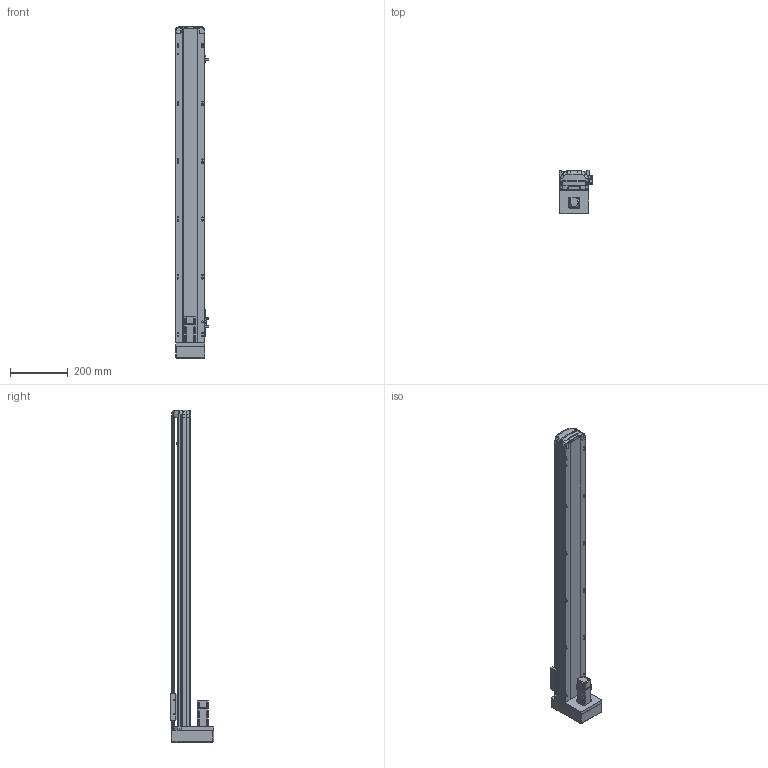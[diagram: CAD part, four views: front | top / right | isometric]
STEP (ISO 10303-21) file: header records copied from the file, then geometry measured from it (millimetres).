
FILE_DESCRIPTION (( 'STEP AP214' ), '1' );
FILE_NAME ('RTH10-XX-900-M-M10-C4.STEP', '2025-10-25T05:47:58', ( 'Microsoft' ), ( 'Microsoft' ), 'SwSTEP 2.0', 'SolidWorks 2018', '' );
FILE_SCHEMA (( 'AUTOMOTIVE_DESIGN' ));
Length unit declared in the file: millimetre
Products named in the file (10): N_RTH13-L-012覜茼え俋离^RTH10-XX-100-M-M10-C4; N_RTH12-M-008-萇儂啣^RTH10-XX-100-M-M10-C4; N_RTH12-GY-001P^RTH10-XX-100-M-M10-C4; RTH10-XX-900-M-M10-C4; N_RTH12-GY-004-賑釱^RTH10-XX-100-M-M10-C4; N_RTH12-M-018-裔赽^RTH10-XX-100-M-M10-C4; N_RTH12-M-007P-奻裔^RTH10-XX-100-M-M10-C4; N_OMRON EE-SX672 传感器^RTH10-XX-100-M-M10-C4; N_P10^RTH10-XX-100-M-M10-C4; N_RTH12-M-011P-臏倰第菁釱^RTH10-XX-100-M-M10-C4
Assembly tree (11 placements, depth 2):
  RTH10-XX-900-M-M10-C4
    N_RTH12-M-011P-臏倰第菁釱^RTH10-XX-100-M-M10-C4
    N_RTH13-L-012覜茼え俋离^RTH10-XX-100-M-M10-C4
    N_OMRON EE-SX672 传感器^RTH10-XX-100-M-M10-C4  x3
    N_P10^RTH10-XX-100-M-M10-C4
    N_RTH12-M-007P-奻裔^RTH10-XX-100-M-M10-C4
    N_RTH12-M-008-萇儂啣^RTH10-XX-100-M-M10-C4
    N_RTH12-M-018-裔赽^RTH10-XX-100-M-M10-C4
    N_RTH12-GY-004-賑釱^RTH10-XX-100-M-M10-C4
    N_RTH12-GY-001P^RTH10-XX-100-M-M10-C4
Bounding box: 116.5 x 149 x 1147.31 mm (x, y, z)
Volume: 5044004.6 mm3; surface area: 753749.9 mm2
Topology: 10 solids, 12 shells, 1953 faces, 5461 edges, 3583 vertices
Faces by surface type: plane 959, cylinder 487, bspline 472, cone 29, sphere 4, torus 2
Entity records: 59009 total; most frequent: CARTESIAN_POINT 23387, ORIENTED_EDGE 7994, DIRECTION 6159, EDGE_CURVE 4003, VERTEX_POINT 2627, VECTOR 2097, LINE 2097, AXIS2_PLACEMENT_3D 2031
